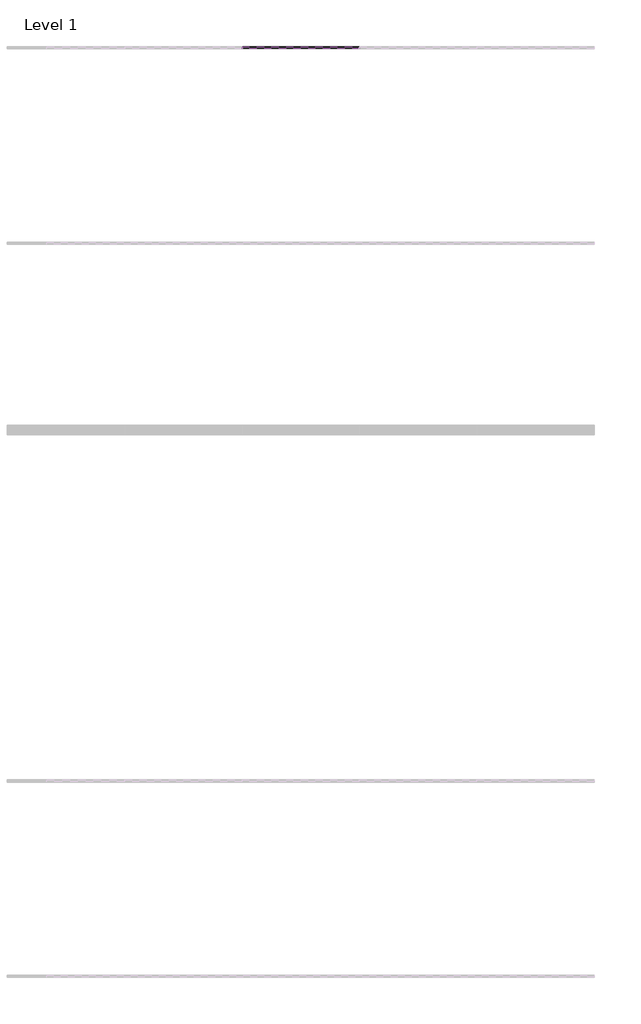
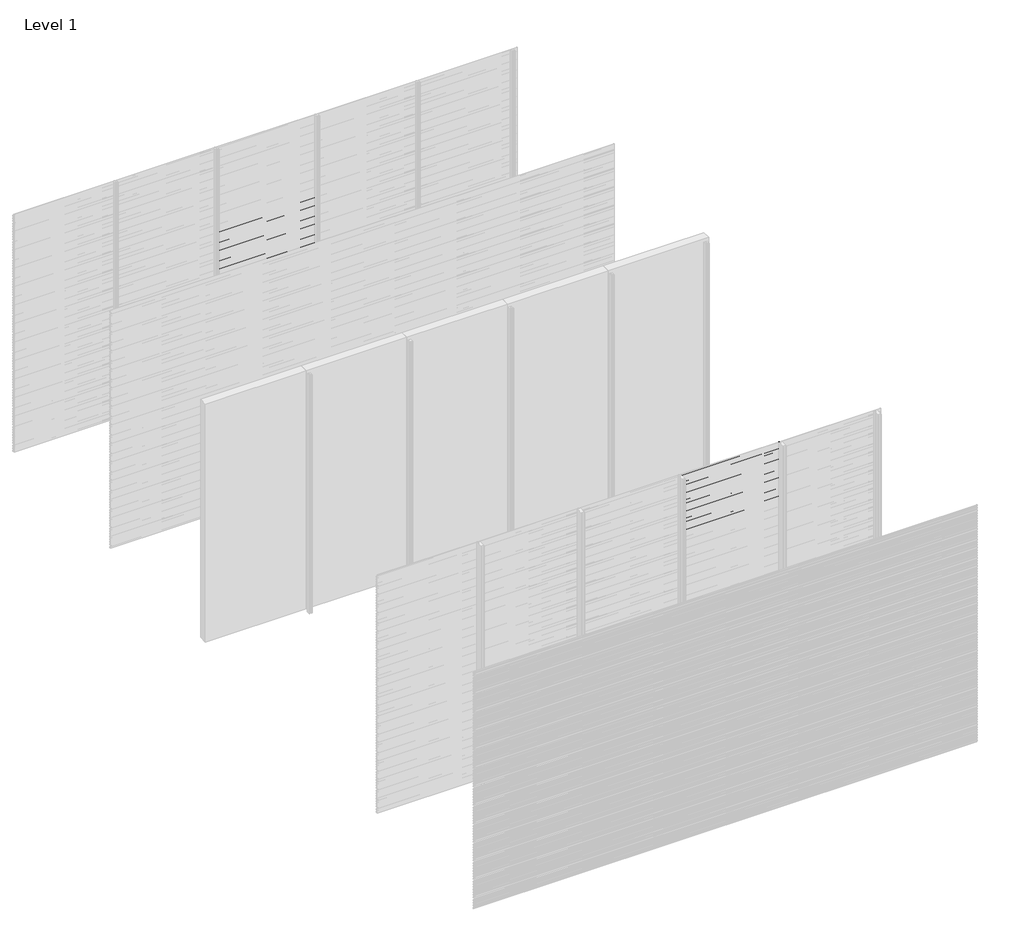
# One storey, part 77 of 507: 84 proxies.
"""IFC4 building model written with IfcOpenShell, lengths in millimetres."""

from ifc_helpers import new_model, si_unit, frame, origin, place, context, project, spatial, polyline, outline, extrude, element, save

model = new_model("IFC4")

# Units and contexts
model_context = context("Model", 3, world=origin())
ifc_project = project(units=[si_unit("LENGTHUNIT", "METRE", prefix="MILLI")], contexts=[model_context])

# Site, building, storey
site = spatial("IfcSite", under=ifc_project)
building = spatial("IfcBuilding", under=site)
storey = spatial("IfcBuildingStorey", under=building, Name="Level 1", Elevation=0.0)

# Proxies
placement = place(None, origin())
element("IfcBuildingElementProxy", 1, Name="Wall Sweeps", at=placement, inside=storey, context=model_context, shape_type="SweptSolid", body=[
    extrude(outline(polyline([(59003.4540136, 1974.0), (59003.4540136, 1960.5), (59002.2040136, 1961.2216933), (59002.2040136, 1973.2782281), (58983.0540136, 1984.3345698), (58983.0540136, 1998.0), (58984.3040136, 1998.0), (58984.3040136, 1985.0562577), (59003.4540136, 1974.0)])), frame((47366.6208097, 0.0, 0.0), z_axis=(1.0, 0.0, 0.0), x_axis=(0.0, 1.0, 0.0)), (0.0, 0.0, 1.0), 1199.9999999),
])
element("IfcBuildingElementProxy", 2, Name="Wall Sweeps", at=placement, inside=storey, context=model_context, shape_type="SweptSolid", body=[
    extrude(outline(polyline([(59003.4540136, 1940.7), (59003.4540136, 1927.2), (59002.2040136, 1927.9216933), (59002.2040136, 1939.9782281), (58983.0540136, 1951.0345698), (58983.0540136, 1964.7), (58984.3040136, 1964.7), (58984.3040136, 1951.7562577), (59003.4540136, 1940.7)])), frame((47366.6208097, 0.0, 0.0), z_axis=(1.0, 0.0, 0.0), x_axis=(0.0, 1.0, 0.0)), (0.0, 0.0, 1.0), 1199.9999999),
])
element("IfcBuildingElementProxy", 3, Name="Wall Sweeps", at=placement, inside=storey, context=model_context, shape_type="SweptSolid", body=[
    extrude(outline(polyline([(59003.4540136, 1907.4), (59003.4540136, 1893.9), (59002.2040136, 1894.6216933), (59002.2040136, 1906.6782281), (58983.0540136, 1917.7345698), (58983.0540136, 1931.4), (58984.3040136, 1931.4), (58984.3040136, 1918.4562577), (59003.4540136, 1907.4)])), frame((47366.6208097, 0.0, 0.0), z_axis=(1.0, 0.0, 0.0), x_axis=(0.0, 1.0, 0.0)), (0.0, 0.0, 1.0), 1199.9999999),
])
element("IfcBuildingElementProxy", 4, Name="Wall Sweeps", at=placement, inside=storey, context=model_context, shape_type="SweptSolid", body=[
    extrude(outline(polyline([(59003.4540136, 1874.1), (59003.4540136, 1860.6), (59002.2040136, 1861.3216933), (59002.2040136, 1873.3782281), (58983.0540136, 1884.4345698), (58983.0540136, 1898.1), (58984.3040136, 1898.1), (58984.3040136, 1885.1562577), (59003.4540136, 1874.1)])), frame((47366.6208097, 0.0, 0.0), z_axis=(1.0, 0.0, 0.0), x_axis=(0.0, 1.0, 0.0)), (0.0, 0.0, 1.0), 1199.9999999),
])
element("IfcBuildingElementProxy", 5, Name="Wall Sweeps", at=placement, inside=storey, context=model_context, shape_type="SweptSolid", body=[
    extrude(outline(polyline([(59003.4540136, 1840.8), (59003.4540136, 1827.3), (59002.2040136, 1828.0216933), (59002.2040136, 1840.0782281), (58983.0540136, 1851.1345698), (58983.0540136, 1864.8), (58984.3040136, 1864.8), (58984.3040136, 1851.8562577), (59003.4540136, 1840.8)])), frame((47366.6208097, 0.0, 0.0), z_axis=(1.0, 0.0, 0.0), x_axis=(0.0, 1.0, 0.0)), (0.0, 0.0, 1.0), 1199.9999999),
])
element("IfcBuildingElementProxy", 6, Name="Wall Sweeps", at=placement, inside=storey, context=model_context, shape_type="SweptSolid", body=[
    extrude(outline(polyline([(59003.4540136, 1807.5), (59003.4540136, 1794.0), (59002.2040136, 1794.7216933), (59002.2040136, 1806.7782281), (58983.0540136, 1817.8345698), (58983.0540136, 1831.5), (58984.3040136, 1831.5), (58984.3040136, 1818.5562577), (59003.4540136, 1807.5)])), frame((47366.6208097, 0.0, 0.0), z_axis=(1.0, 0.0, 0.0), x_axis=(0.0, 1.0, 0.0)), (0.0, 0.0, 1.0), 1199.9999999),
])
element("IfcBuildingElementProxy", 7, Name="Wall Sweeps", at=placement, inside=storey, context=model_context, shape_type="SweptSolid", body=[
    extrude(outline(polyline([(59003.4540136, 1774.2), (59003.4540136, 1760.7), (59002.2040136, 1761.4216933), (59002.2040136, 1773.4782281), (58983.0540136, 1784.5345698), (58983.0540136, 1798.2), (58984.3040136, 1798.2), (58984.3040136, 1785.2562577), (59003.4540136, 1774.2)])), frame((47366.6208097, 0.0, 0.0), z_axis=(1.0, 0.0, 0.0), x_axis=(0.0, 1.0, 0.0)), (0.0, 0.0, 1.0), 1199.9999999),
])
element("IfcBuildingElementProxy", 8, Name="Wall Sweeps", at=placement, inside=storey, context=model_context, shape_type="SweptSolid", body=[
    extrude(outline(polyline([(59003.4540136, 1740.9), (59003.4540136, 1727.4), (59002.2040136, 1728.1216933), (59002.2040136, 1740.1782281), (58983.0540136, 1751.2345698), (58983.0540136, 1764.9), (58984.3040136, 1764.9), (58984.3040136, 1751.9562577), (59003.4540136, 1740.9)])), frame((47366.6208097, 0.0, 0.0), z_axis=(1.0, 0.0, 0.0), x_axis=(0.0, 1.0, 0.0)), (0.0, 0.0, 1.0), 1199.9999999),
])
element("IfcBuildingElementProxy", 9, Name="Wall Sweeps", at=placement, inside=storey, context=model_context, shape_type="SweptSolid", body=[
    extrude(outline(polyline([(59003.4540136, 1707.6), (59003.4540136, 1694.1), (59002.2040136, 1694.8216933), (59002.2040136, 1706.8782281), (58983.0540136, 1717.9345698), (58983.0540136, 1731.6), (58984.3040136, 1731.6), (58984.3040136, 1718.6562577), (59003.4540136, 1707.6)])), frame((47366.6208097, 0.0, 0.0), z_axis=(1.0, 0.0, 0.0), x_axis=(0.0, 1.0, 0.0)), (0.0, 0.0, 1.0), 1199.9999999),
])
element("IfcBuildingElementProxy", 10, Name="Wall Sweeps", at=placement, inside=storey, context=model_context, shape_type="SweptSolid", body=[
    extrude(outline(polyline([(59003.4540136, 1674.3), (59003.4540136, 1660.8), (59002.2040136, 1661.5216933), (59002.2040136, 1673.5782281), (58983.0540136, 1684.6345698), (58983.0540136, 1698.3), (58984.3040136, 1698.3), (58984.3040136, 1685.3562577), (59003.4540136, 1674.3)])), frame((47366.6208097, 0.0, 0.0), z_axis=(1.0, 0.0, 0.0), x_axis=(0.0, 1.0, 0.0)), (0.0, 0.0, 1.0), 1199.9999999),
])
element("IfcBuildingElementProxy", 11, Name="Wall Sweeps", at=placement, inside=storey, context=model_context, shape_type="SweptSolid", body=[
    extrude(outline(polyline([(59003.4540136, 1641.0), (59003.4540136, 1627.5), (59002.2040136, 1628.2216933), (59002.2040136, 1640.2782281), (58983.0540136, 1651.3345698), (58983.0540136, 1665.0), (58984.3040136, 1665.0), (58984.3040136, 1652.0562577), (59003.4540136, 1641.0)])), frame((47366.6208097, 0.0, 0.0), z_axis=(1.0, 0.0, 0.0), x_axis=(0.0, 1.0, 0.0)), (0.0, 0.0, 1.0), 1199.9999999),
])
element("IfcBuildingElementProxy", 12, Name="Wall Sweeps", at=placement, inside=storey, context=model_context, shape_type="SweptSolid", body=[
    extrude(outline(polyline([(59003.4540136, 1607.7), (59003.4540136, 1594.2), (59002.2040136, 1594.9216933), (59002.2040136, 1606.9782281), (58983.0540136, 1618.0345698), (58983.0540136, 1631.7), (58984.3040136, 1631.7), (58984.3040136, 1618.7562577), (59003.4540136, 1607.7)])), frame((47366.6208097, 0.0, 0.0), z_axis=(1.0, 0.0, 0.0), x_axis=(0.0, 1.0, 0.0)), (0.0, 0.0, 1.0), 1199.9999999),
])
element("IfcBuildingElementProxy", 13, Name="Wall Sweeps", at=placement, inside=storey, context=model_context, shape_type="SweptSolid", body=[
    extrude(outline(polyline([(59003.4540136, 1574.4), (59003.4540136, 1560.9), (59002.2040136, 1561.6216933), (59002.2040136, 1573.6782281), (58983.0540136, 1584.7345698), (58983.0540136, 1598.4), (58984.3040136, 1598.4), (58984.3040136, 1585.4562577), (59003.4540136, 1574.4)])), frame((47366.6208097, 0.0, 0.0), z_axis=(1.0, 0.0, 0.0), x_axis=(0.0, 1.0, 0.0)), (0.0, 0.0, 1.0), 1199.9999999),
])
element("IfcBuildingElementProxy", 14, Name="Wall Sweeps", at=placement, inside=storey, context=model_context, shape_type="SweptSolid", body=[
    extrude(outline(polyline([(59003.4540136, 1541.1), (59003.4540136, 1527.6), (59002.2040136, 1528.3216933), (59002.2040136, 1540.3782281), (58983.0540136, 1551.4345698), (58983.0540136, 1565.1), (58984.3040136, 1565.1), (58984.3040136, 1552.1562577), (59003.4540136, 1541.1)])), frame((47366.6208097, 0.0, 0.0), z_axis=(1.0, 0.0, 0.0), x_axis=(0.0, 1.0, 0.0)), (0.0, 0.0, 1.0), 1199.9999999),
])
element("IfcBuildingElementProxy", 15, Name="Wall Sweeps", at=placement, inside=storey, context=model_context, shape_type="SweptSolid", body=[
    extrude(outline(polyline([(59003.4540136, 1507.8), (59003.4540136, 1494.3), (59002.2040136, 1495.0216933), (59002.2040136, 1507.0782281), (58983.0540136, 1518.1345698), (58983.0540136, 1531.8), (58984.3040136, 1531.8), (58984.3040136, 1518.8562577), (59003.4540136, 1507.8)])), frame((47366.6208097, 0.0, 0.0), z_axis=(1.0, 0.0, 0.0), x_axis=(0.0, 1.0, 0.0)), (0.0, 0.0, 1.0), 1199.9999999),
])
element("IfcBuildingElementProxy", 16, Name="Wall Sweeps", at=placement, inside=storey, context=model_context, shape_type="SweptSolid", body=[
    extrude(outline(polyline([(59003.4540136, 1474.5), (59003.4540136, 1461.0), (59002.2040136, 1461.7216933), (59002.2040136, 1473.7782281), (58983.0540136, 1484.8345698), (58983.0540136, 1498.5), (58984.3040136, 1498.5), (58984.3040136, 1485.5562577), (59003.4540136, 1474.5)])), frame((47366.6208097, 0.0, 0.0), z_axis=(1.0, 0.0, 0.0), x_axis=(0.0, 1.0, 0.0)), (0.0, 0.0, 1.0), 1199.9999999),
])
element("IfcBuildingElementProxy", 17, Name="Wall Sweeps", at=placement, inside=storey, context=model_context, shape_type="SweptSolid", body=[
    extrude(outline(polyline([(59003.4540136, 1441.2), (59003.4540136, 1427.7), (59002.2040136, 1428.4216933), (59002.2040136, 1440.4782281), (58983.0540136, 1451.5345698), (58983.0540136, 1465.2), (58984.3040136, 1465.2), (58984.3040136, 1452.2562577), (59003.4540136, 1441.2)])), frame((47366.6208097, 0.0, 0.0), z_axis=(1.0, 0.0, 0.0), x_axis=(0.0, 1.0, 0.0)), (0.0, 0.0, 1.0), 1199.9999999),
])
element("IfcBuildingElementProxy", 18, Name="Wall Sweeps", at=placement, inside=storey, context=model_context, shape_type="SweptSolid", body=[
    extrude(outline(polyline([(59003.4540136, 1407.9), (59003.4540136, 1394.4), (59002.2040136, 1395.1216933), (59002.2040136, 1407.1782281), (58983.0540136, 1418.2345698), (58983.0540136, 1431.9), (58984.3040136, 1431.9), (58984.3040136, 1418.9562577), (59003.4540136, 1407.9)])), frame((47366.6208097, 0.0, 0.0), z_axis=(1.0, 0.0, 0.0), x_axis=(0.0, 1.0, 0.0)), (0.0, 0.0, 1.0), 1199.9999999),
])
element("IfcBuildingElementProxy", 19, Name="Wall Sweeps", at=placement, inside=storey, context=model_context, shape_type="SweptSolid", body=[
    extrude(outline(polyline([(59003.4540136, 1374.6), (59003.4540136, 1361.1), (59002.2040136, 1361.8216933), (59002.2040136, 1373.8782281), (58983.0540136, 1384.9345698), (58983.0540136, 1398.6), (58984.3040136, 1398.6), (58984.3040136, 1385.6562577), (59003.4540136, 1374.6)])), frame((47366.6208097, 0.0, 0.0), z_axis=(1.0, 0.0, 0.0), x_axis=(0.0, 1.0, 0.0)), (0.0, 0.0, 1.0), 1199.9999999),
])
element("IfcBuildingElementProxy", 20, Name="Wall Sweeps", at=placement, inside=storey, context=model_context, shape_type="SweptSolid", body=[
    extrude(outline(polyline([(59003.4540136, 1341.3), (59003.4540136, 1327.8), (59002.2040136, 1328.5216933), (59002.2040136, 1340.5782281), (58983.0540136, 1351.6345698), (58983.0540136, 1365.3), (58984.3040136, 1365.3), (58984.3040136, 1352.3562577), (59003.4540136, 1341.3)])), frame((47366.6208097, 0.0, 0.0), z_axis=(1.0, 0.0, 0.0), x_axis=(0.0, 1.0, 0.0)), (0.0, 0.0, 1.0), 1199.9999999),
])
element("IfcBuildingElementProxy", 21, Name="Wall Sweeps", at=placement, inside=storey, context=model_context, shape_type="SweptSolid", body=[
    extrude(outline(polyline([(59003.4540136, 1308.0), (59003.4540136, 1294.5), (59002.2040136, 1295.2216933), (59002.2040136, 1307.2782281), (58983.0540136, 1318.3345698), (58983.0540136, 1332.0), (58984.3040136, 1332.0), (58984.3040136, 1319.0562577), (59003.4540136, 1308.0)])), frame((47366.6208097, 0.0, 0.0), z_axis=(1.0, 0.0, 0.0), x_axis=(0.0, 1.0, 0.0)), (0.0, 0.0, 1.0), 1199.9999999),
])
element("IfcBuildingElementProxy", 22, Name="Wall Sweeps", at=placement, inside=storey, context=model_context, shape_type="SweptSolid", body=[
    extrude(outline(polyline([(59003.4540136, 1274.7), (59003.4540136, 1261.2), (59002.2040136, 1261.9216933), (59002.2040136, 1273.9782281), (58983.0540136, 1285.0345698), (58983.0540136, 1298.7), (58984.3040136, 1298.7), (58984.3040136, 1285.7562577), (59003.4540136, 1274.7)])), frame((47366.6208097, 0.0, 0.0), z_axis=(1.0, 0.0, 0.0), x_axis=(0.0, 1.0, 0.0)), (0.0, 0.0, 1.0), 1199.9999999),
])
element("IfcBuildingElementProxy", 23, Name="Wall Sweeps", at=placement, inside=storey, context=model_context, shape_type="SweptSolid", body=[
    extrude(outline(polyline([(59003.4540136, 1241.4), (59003.4540136, 1227.9), (59002.2040136, 1228.6216933), (59002.2040136, 1240.6782281), (58983.0540136, 1251.7345698), (58983.0540136, 1265.4), (58984.3040136, 1265.4), (58984.3040136, 1252.4562577), (59003.4540136, 1241.4)])), frame((47366.6208097, 0.0, 0.0), z_axis=(1.0, 0.0, 0.0), x_axis=(0.0, 1.0, 0.0)), (0.0, 0.0, 1.0), 1199.9999999),
])
element("IfcBuildingElementProxy", 24, Name="Wall Sweeps", at=placement, inside=storey, context=model_context, shape_type="SweptSolid", body=[
    extrude(outline(polyline([(59003.4540136, 1208.1), (59003.4540136, 1194.6), (59002.2040136, 1195.3216933), (59002.2040136, 1207.3782281), (58983.0540136, 1218.4345698), (58983.0540136, 1232.1), (58984.3040136, 1232.1), (58984.3040136, 1219.1562577), (59003.4540136, 1208.1)])), frame((47366.6208097, 0.0, 0.0), z_axis=(1.0, 0.0, 0.0), x_axis=(0.0, 1.0, 0.0)), (0.0, 0.0, 1.0), 1199.9999999),
])
element("IfcBuildingElementProxy", 25, Name="Wall Sweeps", at=placement, inside=storey, context=model_context, shape_type="SweptSolid", body=[
    extrude(outline(polyline([(59003.4540136, 1174.8), (59003.4540136, 1161.3), (59002.2040136, 1162.0216933), (59002.2040136, 1174.0782281), (58983.0540136, 1185.1345698), (58983.0540136, 1198.8), (58984.3040136, 1198.8), (58984.3040136, 1185.8562577), (59003.4540136, 1174.8)])), frame((47366.6208097, 0.0, 0.0), z_axis=(1.0, 0.0, 0.0), x_axis=(0.0, 1.0, 0.0)), (0.0, 0.0, 1.0), 1199.9999999),
])
element("IfcBuildingElementProxy", 26, Name="Wall Sweeps", at=placement, inside=storey, context=model_context, shape_type="SweptSolid", body=[
    extrude(outline(polyline([(59003.4540136, 1141.5), (59003.4540136, 1128.0), (59002.2040136, 1128.7216933), (59002.2040136, 1140.7782281), (58983.0540136, 1151.8345698), (58983.0540136, 1165.5), (58984.3040136, 1165.5), (58984.3040136, 1152.5562577), (59003.4540136, 1141.5)])), frame((47366.6208097, 0.0, 0.0), z_axis=(1.0, 0.0, 0.0), x_axis=(0.0, 1.0, 0.0)), (0.0, 0.0, 1.0), 1199.9999999),
])
element("IfcBuildingElementProxy", 27, Name="Wall Sweeps", at=placement, inside=storey, context=model_context, shape_type="SweptSolid", body=[
    extrude(outline(polyline([(59003.4540136, 1108.2), (59003.4540136, 1094.7), (59002.2040136, 1095.4216933), (59002.2040136, 1107.4782281), (58983.0540136, 1118.5345698), (58983.0540136, 1132.2), (58984.3040136, 1132.2), (58984.3040136, 1119.2562577), (59003.4540136, 1108.2)])), frame((47366.6208097, 0.0, 0.0), z_axis=(1.0, 0.0, 0.0), x_axis=(0.0, 1.0, 0.0)), (0.0, 0.0, 1.0), 1199.9999999),
])
element("IfcBuildingElementProxy", 28, Name="Wall Sweeps", at=placement, inside=storey, context=model_context, shape_type="SweptSolid", body=[
    extrude(outline(polyline([(59003.4540136, 1074.9), (59003.4540136, 1061.4), (59002.2040136, 1062.1216933), (59002.2040136, 1074.1782281), (58983.0540136, 1085.2345698), (58983.0540136, 1098.9), (58984.3040136, 1098.9), (58984.3040136, 1085.9562577), (59003.4540136, 1074.9)])), frame((47366.6208097, 0.0, 0.0), z_axis=(1.0, 0.0, 0.0), x_axis=(0.0, 1.0, 0.0)), (0.0, 0.0, 1.0), 1199.9999999),
])
element("IfcBuildingElementProxy", 29, Name="Wall Sweeps", at=placement, inside=storey, context=model_context, shape_type="SweptSolid", body=[
    extrude(outline(polyline([(59003.4540136, 1041.6), (59003.4540136, 1028.1), (59002.2040136, 1028.8216933), (59002.2040136, 1040.8782281), (58983.0540136, 1051.9345698), (58983.0540136, 1065.6), (58984.3040136, 1065.6), (58984.3040136, 1052.6562577), (59003.4540136, 1041.6)])), frame((47366.6208097, 0.0, 0.0), z_axis=(1.0, 0.0, 0.0), x_axis=(0.0, 1.0, 0.0)), (0.0, 0.0, 1.0), 1199.9999999),
])
element("IfcBuildingElementProxy", 30, Name="Wall Sweeps", at=placement, inside=storey, context=model_context, shape_type="SweptSolid", body=[
    extrude(outline(polyline([(59003.4540136, 1008.3), (59003.4540136, 994.8), (59002.2040136, 995.5216933), (59002.2040136, 1007.5782281), (58983.0540136, 1018.6345698), (58983.0540136, 1032.3), (58984.3040136, 1032.3), (58984.3040136, 1019.3562577), (59003.4540136, 1008.3)])), frame((47366.6208097, 0.0, 0.0), z_axis=(1.0, 0.0, 0.0), x_axis=(0.0, 1.0, 0.0)), (0.0, 0.0, 1.0), 1199.9999999),
])
element("IfcBuildingElementProxy", 31, Name="Wall Sweeps", at=placement, inside=storey, context=model_context, shape_type="SweptSolid", body=[
    extrude(outline(polyline([(59003.4540136, 975.0), (59003.4540136, 961.5), (59002.2040136, 962.2216933), (59002.2040136, 974.2782281), (58983.0540136, 985.3345698), (58983.0540136, 999.0), (58984.3040136, 999.0), (58984.3040136, 986.0562577), (59003.4540136, 975.0)])), frame((47366.6208097, 0.0, 0.0), z_axis=(1.0, 0.0, 0.0), x_axis=(0.0, 1.0, 0.0)), (0.0, 0.0, 1.0), 1199.9999999),
])
element("IfcBuildingElementProxy", 32, Name="Wall Sweeps", at=placement, inside=storey, context=model_context, shape_type="SweptSolid", body=[
    extrude(outline(polyline([(59003.4540136, 941.7), (59003.4540136, 928.2), (59002.2040136, 928.9216933), (59002.2040136, 940.9782281), (58983.0540136, 952.0345698), (58983.0540136, 965.7), (58984.3040136, 965.7), (58984.3040136, 952.7562577), (59003.4540136, 941.7)])), frame((47366.6208097, 0.0, 0.0), z_axis=(1.0, 0.0, 0.0), x_axis=(0.0, 1.0, 0.0)), (0.0, 0.0, 1.0), 1199.9999999),
])
element("IfcBuildingElementProxy", 33, Name="Wall Sweeps", at=placement, inside=storey, context=model_context, shape_type="SweptSolid", body=[
    extrude(outline(polyline([(59003.4540136, 908.4), (59003.4540136, 894.9), (59002.2040136, 895.6216933), (59002.2040136, 907.6782281), (58983.0540136, 918.7345698), (58983.0540136, 932.4), (58984.3040136, 932.4), (58984.3040136, 919.4562577), (59003.4540136, 908.4)])), frame((47366.6208097, 0.0, 0.0), z_axis=(1.0, 0.0, 0.0), x_axis=(0.0, 1.0, 0.0)), (0.0, 0.0, 1.0), 1199.9999999),
])
element("IfcBuildingElementProxy", 34, Name="Wall Sweeps", at=placement, inside=storey, context=model_context, shape_type="SweptSolid", body=[
    extrude(outline(polyline([(59003.4540136, 875.1), (59003.4540136, 861.6), (59002.2040136, 862.3216933), (59002.2040136, 874.3782281), (58983.0540136, 885.4345698), (58983.0540136, 899.1), (58984.3040136, 899.1), (58984.3040136, 886.1562577), (59003.4540136, 875.1)])), frame((47366.6208097, 0.0, 0.0), z_axis=(1.0, 0.0, 0.0), x_axis=(0.0, 1.0, 0.0)), (0.0, 0.0, 1.0), 1199.9999999),
])
element("IfcBuildingElementProxy", 35, Name="Wall Sweeps", at=placement, inside=storey, context=model_context, shape_type="SweptSolid", body=[
    extrude(outline(polyline([(59003.4540136, 841.8), (59003.4540136, 828.3), (59002.2040136, 829.0216933), (59002.2040136, 841.0782281), (58983.0540136, 852.1345698), (58983.0540136, 865.8), (58984.3040136, 865.8), (58984.3040136, 852.8562577), (59003.4540136, 841.8)])), frame((47366.6208097, 0.0, 0.0), z_axis=(1.0, 0.0, 0.0), x_axis=(0.0, 1.0, 0.0)), (0.0, 0.0, 1.0), 1199.9999999),
])
element("IfcBuildingElementProxy", 36, Name="Wall Sweeps", at=placement, inside=storey, context=model_context, shape_type="SweptSolid", body=[
    extrude(outline(polyline([(59003.4540136, 808.5), (59003.4540136, 795.0), (59002.2040136, 795.7216933), (59002.2040136, 807.7782281), (58983.0540136, 818.8345698), (58983.0540136, 832.5), (58984.3040136, 832.5), (58984.3040136, 819.5562577), (59003.4540136, 808.5)])), frame((47366.6208097, 0.0, 0.0), z_axis=(1.0, 0.0, 0.0), x_axis=(0.0, 1.0, 0.0)), (0.0, 0.0, 1.0), 1199.9999999),
])
element("IfcBuildingElementProxy", 37, Name="Wall Sweeps", at=placement, inside=storey, context=model_context, shape_type="SweptSolid", body=[
    extrude(outline(polyline([(59003.4540136, 775.2), (59003.4540136, 761.7), (59002.2040136, 762.4216933), (59002.2040136, 774.4782281), (58983.0540136, 785.5345698), (58983.0540136, 799.2), (58984.3040136, 799.2), (58984.3040136, 786.2562577), (59003.4540136, 775.2)])), frame((47366.6208097, 0.0, 0.0), z_axis=(1.0, 0.0, 0.0), x_axis=(0.0, 1.0, 0.0)), (0.0, 0.0, 1.0), 1199.9999999),
])
element("IfcBuildingElementProxy", 38, Name="Wall Sweeps", at=placement, inside=storey, context=model_context, shape_type="SweptSolid", body=[
    extrude(outline(polyline([(59003.4540136, 741.9), (59003.4540136, 728.4), (59002.2040136, 729.1216933), (59002.2040136, 741.1782281), (58983.0540136, 752.2345698), (58983.0540136, 765.9), (58984.3040136, 765.9), (58984.3040136, 752.9562577), (59003.4540136, 741.9)])), frame((47366.6208097, 0.0, 0.0), z_axis=(1.0, 0.0, 0.0), x_axis=(0.0, 1.0, 0.0)), (0.0, 0.0, 1.0), 1199.9999999),
])
element("IfcBuildingElementProxy", 39, Name="Wall Sweeps", at=placement, inside=storey, context=model_context, shape_type="SweptSolid", body=[
    extrude(outline(polyline([(59003.4540136, 708.6), (59003.4540136, 695.1), (59002.2040136, 695.8216933), (59002.2040136, 707.8782281), (58983.0540136, 718.9345698), (58983.0540136, 732.6), (58984.3040136, 732.6), (58984.3040136, 719.6562577), (59003.4540136, 708.6)])), frame((47366.6208097, 0.0, 0.0), z_axis=(1.0, 0.0, 0.0), x_axis=(0.0, 1.0, 0.0)), (0.0, 0.0, 1.0), 1199.9999999),
])
element("IfcBuildingElementProxy", 40, Name="Wall Sweeps", at=placement, inside=storey, context=model_context, shape_type="SweptSolid", body=[
    extrude(outline(polyline([(59003.4540136, 675.3), (59003.4540136, 661.8), (59002.2040136, 662.5216933), (59002.2040136, 674.5782281), (58983.0540136, 685.6345698), (58983.0540136, 699.3), (58984.3040136, 699.3), (58984.3040136, 686.3562577), (59003.4540136, 675.3)])), frame((47366.6208097, 0.0, 0.0), z_axis=(1.0, 0.0, 0.0), x_axis=(0.0, 1.0, 0.0)), (0.0, 0.0, 1.0), 1199.9999999),
])
element("IfcBuildingElementProxy", 41, Name="Wall Sweeps", at=placement, inside=storey, context=model_context, shape_type="SweptSolid", body=[
    extrude(outline(polyline([(59003.4540136, 642.0), (59003.4540136, 628.5), (59002.2040136, 629.2216933), (59002.2040136, 641.2782281), (58983.0540136, 652.3345698), (58983.0540136, 666.0), (58984.3040136, 666.0), (58984.3040136, 653.0562577), (59003.4540136, 642.0)])), frame((47366.6208097, 0.0, 0.0), z_axis=(1.0, 0.0, 0.0), x_axis=(0.0, 1.0, 0.0)), (0.0, 0.0, 1.0), 1199.9999999),
])
element("IfcBuildingElementProxy", 42, Name="Wall Sweeps", at=placement, inside=storey, context=model_context, shape_type="SweptSolid", body=[
    extrude(outline(polyline([(59003.4540136, 608.7), (59003.4540136, 595.2), (59002.2040136, 595.9216933), (59002.2040136, 607.9782281), (58983.0540136, 619.0345698), (58983.0540136, 632.7), (58984.3040136, 632.7), (58984.3040136, 619.7562577), (59003.4540136, 608.7)])), frame((47366.6208097, 0.0, 0.0), z_axis=(1.0, 0.0, 0.0), x_axis=(0.0, 1.0, 0.0)), (0.0, 0.0, 1.0), 1199.9999999),
])
element("IfcBuildingElementProxy", 43, Name="Wall Sweeps", at=placement, inside=storey, context=model_context, shape_type="SweptSolid", body=[
    extrude(outline(polyline([(59003.4540136, 575.4), (59003.4540136, 561.9), (59002.2040136, 562.6216933), (59002.2040136, 574.6782281), (58983.0540136, 585.7345698), (58983.0540136, 599.4), (58984.3040136, 599.4), (58984.3040136, 586.4562577), (59003.4540136, 575.4)])), frame((47366.6208097, 0.0, 0.0), z_axis=(1.0, 0.0, 0.0), x_axis=(0.0, 1.0, 0.0)), (0.0, 0.0, 1.0), 1199.9999999),
])
element("IfcBuildingElementProxy", 44, Name="Wall Sweeps", at=placement, inside=storey, context=model_context, shape_type="SweptSolid", body=[
    extrude(outline(polyline([(59003.4540136, 542.1), (59003.4540136, 528.6), (59002.2040136, 529.3216933), (59002.2040136, 541.3782281), (58983.0540136, 552.4345698), (58983.0540136, 566.1), (58984.3040136, 566.1), (58984.3040136, 553.1562577), (59003.4540136, 542.1)])), frame((47366.6208097, 0.0, 0.0), z_axis=(1.0, 0.0, 0.0), x_axis=(0.0, 1.0, 0.0)), (0.0, 0.0, 1.0), 1199.9999999),
])
element("IfcBuildingElementProxy", 45, Name="Wall Sweeps", at=placement, inside=storey, context=model_context, shape_type="SweptSolid", body=[
    extrude(outline(polyline([(59003.4540136, 508.8), (59003.4540136, 495.3), (59002.2040136, 496.0216933), (59002.2040136, 508.0782281), (58983.0540136, 519.1345698), (58983.0540136, 532.8), (58984.3040136, 532.8), (58984.3040136, 519.8562577), (59003.4540136, 508.8)])), frame((47366.6208097, 0.0, 0.0), z_axis=(1.0, 0.0, 0.0), x_axis=(0.0, 1.0, 0.0)), (0.0, 0.0, 1.0), 1199.9999999),
])
element("IfcBuildingElementProxy", 46, Name="Wall Sweeps", at=placement, inside=storey, context=model_context, shape_type="SweptSolid", body=[
    extrude(outline(polyline([(59003.4540136, 475.5), (59003.4540136, 462.0), (59002.2040136, 462.7216933), (59002.2040136, 474.7782281), (58983.0540136, 485.8345698), (58983.0540136, 499.5), (58984.3040136, 499.5), (58984.3040136, 486.5562577), (59003.4540136, 475.5)])), frame((47366.6208097, 0.0, 0.0), z_axis=(1.0, 0.0, 0.0), x_axis=(0.0, 1.0, 0.0)), (0.0, 0.0, 1.0), 1199.9999999),
])
element("IfcBuildingElementProxy", 47, Name="Wall Sweeps", at=placement, inside=storey, context=model_context, shape_type="SweptSolid", body=[
    extrude(outline(polyline([(59003.4540136, 442.2), (59003.4540136, 428.7), (59002.2040136, 429.4216933), (59002.2040136, 441.4782281), (58983.0540136, 452.5345698), (58983.0540136, 466.2), (58984.3040136, 466.2), (58984.3040136, 453.2562577), (59003.4540136, 442.2)])), frame((47366.6208097, 0.0, 0.0), z_axis=(1.0, 0.0, 0.0), x_axis=(0.0, 1.0, 0.0)), (0.0, 0.0, 1.0), 1199.9999999),
])
element("IfcBuildingElementProxy", 48, Name="Wall Sweeps", at=placement, inside=storey, context=model_context, shape_type="SweptSolid", body=[
    extrude(outline(polyline([(59003.4540136, 408.9), (59003.4540136, 395.4), (59002.2040136, 396.1216933), (59002.2040136, 408.1782281), (58983.0540136, 419.2345698), (58983.0540136, 432.9), (58984.3040136, 432.9), (58984.3040136, 419.9562577), (59003.4540136, 408.9)])), frame((47366.6208097, 0.0, 0.0), z_axis=(1.0, 0.0, 0.0), x_axis=(0.0, 1.0, 0.0)), (0.0, 0.0, 1.0), 1199.9999999),
])
element("IfcBuildingElementProxy", 49, Name="Wall Sweeps", at=placement, inside=storey, context=model_context, shape_type="SweptSolid", body=[
    extrude(outline(polyline([(59003.4540136, 375.6), (59003.4540136, 362.1), (59002.2040136, 362.8216933), (59002.2040136, 374.8782281), (58983.0540136, 385.9345698), (58983.0540136, 399.6), (58984.3040136, 399.6), (58984.3040136, 386.6562577), (59003.4540136, 375.6)])), frame((47366.6208097, 0.0, 0.0), z_axis=(1.0, 0.0, 0.0), x_axis=(0.0, 1.0, 0.0)), (0.0, 0.0, 1.0), 1199.9999999),
])
element("IfcBuildingElementProxy", 50, Name="Wall Sweeps", at=placement, inside=storey, context=model_context, shape_type="SweptSolid", body=[
    extrude(outline(polyline([(59003.4540136, 342.3), (59003.4540136, 328.8), (59002.2040136, 329.5216933), (59002.2040136, 341.5782281), (58983.0540136, 352.6345698), (58983.0540136, 366.3), (58984.3040136, 366.3), (58984.3040136, 353.3562577), (59003.4540136, 342.3)])), frame((47366.6208097, 0.0, 0.0), z_axis=(1.0, 0.0, 0.0), x_axis=(0.0, 1.0, 0.0)), (0.0, 0.0, 1.0), 1199.9999999),
])
element("IfcBuildingElementProxy", 51, Name="Wall Sweeps", at=placement, inside=storey, context=model_context, shape_type="SweptSolid", body=[
    extrude(outline(polyline([(59003.4540136, 309.0), (59003.4540136, 295.5), (59002.2040136, 296.2216933), (59002.2040136, 308.2782281), (58983.0540136, 319.3345698), (58983.0540136, 333.0), (58984.3040136, 333.0), (58984.3040136, 320.0562577), (59003.4540136, 309.0)])), frame((47366.6208097, 0.0, 0.0), z_axis=(1.0, 0.0, 0.0), x_axis=(0.0, 1.0, 0.0)), (0.0, 0.0, 1.0), 1199.9999999),
])
element("IfcBuildingElementProxy", 52, Name="Wall Sweeps", at=placement, inside=storey, context=model_context, shape_type="SweptSolid", body=[
    extrude(outline(polyline([(59003.4540136, 275.7), (59003.4540136, 262.2), (59002.2040136, 262.9216933), (59002.2040136, 274.9782281), (58983.0540136, 286.0345698), (58983.0540136, 299.7), (58984.3040136, 299.7), (58984.3040136, 286.7562577), (59003.4540136, 275.7)])), frame((47366.6208097, 0.0, 0.0), z_axis=(1.0, 0.0, 0.0), x_axis=(0.0, 1.0, 0.0)), (0.0, 0.0, 1.0), 1199.9999999),
])
element("IfcBuildingElementProxy", 53, Name="Wall Sweeps", at=placement, inside=storey, context=model_context, shape_type="SweptSolid", body=[
    extrude(outline(polyline([(59003.4540136, 242.4), (59003.4540136, 228.9), (59002.2040136, 229.6216933), (59002.2040136, 241.6782281), (58983.0540136, 252.7345698), (58983.0540136, 266.4), (58984.3040136, 266.4), (58984.3040136, 253.4562577), (59003.4540136, 242.4)])), frame((47366.6208097, 0.0, 0.0), z_axis=(1.0, 0.0, 0.0), x_axis=(0.0, 1.0, 0.0)), (0.0, 0.0, 1.0), 1199.9999999),
])
element("IfcBuildingElementProxy", 54, Name="Wall Sweeps", at=placement, inside=storey, context=model_context, shape_type="SweptSolid", body=[
    extrude(outline(polyline([(59003.4540136, 209.1), (59003.4540136, 195.6), (59002.2040136, 196.3216933), (59002.2040136, 208.3782281), (58983.0540136, 219.4345698), (58983.0540136, 233.1), (58984.3040136, 233.1), (58984.3040136, 220.1562577), (59003.4540136, 209.1)])), frame((47366.6208097, 0.0, 0.0), z_axis=(1.0, 0.0, 0.0), x_axis=(0.0, 1.0, 0.0)), (0.0, 0.0, 1.0), 1199.9999999),
])
element("IfcBuildingElementProxy", 55, Name="Wall Sweeps", at=placement, inside=storey, context=model_context, shape_type="SweptSolid", body=[
    extrude(outline(polyline([(59003.4540136, 175.8), (59003.4540136, 162.3), (59002.2040136, 163.0216933), (59002.2040136, 175.0782281), (58983.0540136, 186.1345698), (58983.0540136, 199.8), (58984.3040136, 199.8), (58984.3040136, 186.8562577), (59003.4540136, 175.8)])), frame((47366.6208097, 0.0, 0.0), z_axis=(1.0, 0.0, 0.0), x_axis=(0.0, 1.0, 0.0)), (0.0, 0.0, 1.0), 1199.9999999),
])
element("IfcBuildingElementProxy", 56, Name="Wall Sweeps", at=placement, inside=storey, context=model_context, shape_type="SweptSolid", body=[
    extrude(outline(polyline([(59003.4540136, 142.5), (59003.4540136, 129.0), (59002.2040136, 129.7216933), (59002.2040136, 141.7782281), (58983.0540136, 152.8345698), (58983.0540136, 166.5), (58984.3040136, 166.5), (58984.3040136, 153.5562577), (59003.4540136, 142.5)])), frame((47366.6208097, 0.0, 0.0), z_axis=(1.0, 0.0, 0.0), x_axis=(0.0, 1.0, 0.0)), (0.0, 0.0, 1.0), 1199.9999999),
])
element("IfcBuildingElementProxy", 57, Name="Wall Sweeps", at=placement, inside=storey, context=model_context, shape_type="SweptSolid", body=[
    extrude(outline(polyline([(59003.4540136, 109.2), (59003.4540136, 95.7), (59002.2040136, 96.4216933), (59002.2040136, 108.4782281), (58983.0540136, 119.5345698), (58983.0540136, 133.2), (58984.3040136, 133.2), (58984.3040136, 120.2562577), (59003.4540136, 109.2)])), frame((47366.6208097, 0.0, 0.0), z_axis=(1.0, 0.0, 0.0), x_axis=(0.0, 1.0, 0.0)), (0.0, 0.0, 1.0), 1199.9999999),
])
element("IfcBuildingElementProxy", 58, Name="Wall Sweeps", at=placement, inside=storey, context=model_context, shape_type="SweptSolid", body=[
    extrude(outline(polyline([(59003.4540136, 75.9), (59003.4540136, 62.4), (59002.2040136, 63.1216933), (59002.2040136, 75.1782281), (58983.0540136, 86.2345698), (58983.0540136, 99.9), (58984.3040136, 99.9), (58984.3040136, 86.9562577), (59003.4540136, 75.9)])), frame((47366.6208097, 0.0, 0.0), z_axis=(1.0, 0.0, 0.0), x_axis=(0.0, 1.0, 0.0)), (0.0, 0.0, 1.0), 1199.9999999),
])
element("IfcBuildingElementProxy", 59, Name="Wall Sweeps", at=placement, inside=storey, context=model_context, shape_type="SweptSolid", body=[
    extrude(outline(polyline([(59003.4540136, 42.6), (59003.4540136, 29.1), (59002.2040136, 29.8216933), (59002.2040136, 41.8782281), (58983.0540136, 52.9345698), (58983.0540136, 66.6), (58984.3040136, 66.6), (58984.3040136, 53.6562577), (59003.4540136, 42.6)])), frame((47366.6208097, 0.0, 0.0), z_axis=(1.0, 0.0, 0.0), x_axis=(0.0, 1.0, 0.0)), (0.0, 0.0, 1.0), 1199.9999999),
])
element("IfcBuildingElementProxy", 60, Name="Wall Sweeps", at=placement, inside=storey, context=model_context, shape_type="SweptSolid", body=[
    extrude(outline(polyline([(59003.4540136, 9.3), (59003.4540136, -4.2), (59002.2040136, -3.4783067), (59002.2040136, 8.5782281), (58983.0540136, 19.6345698), (58983.0540136, 33.3), (58984.3040136, 33.3), (58984.3040136, 20.3562577), (59003.4540136, 9.3)])), frame((47366.6208097, 0.0, 0.0), z_axis=(1.0, 0.0, 0.0), x_axis=(0.0, 1.0, 0.0)), (0.0, 0.0, 1.0), 1199.9999999),
])
element("IfcBuildingElementProxy", 61, Name="Wall Sweeps", at=placement, inside=storey, context=model_context, shape_type="SweptSolid", body=[
    extrude(outline(polyline([(51503.4540136, 2973.0), (51503.4540136, 2959.5), (51502.2040136, 2960.2216933), (51502.2040136, 2972.2782281), (51483.0540136, 2983.3345698), (51483.0540136, 2997.0), (51484.3040136, 2997.0), (51484.3040136, 2984.0562577), (51503.4540136, 2973.0)])), frame((48566.6208096, 0.0, 0.0), z_axis=(1.0, 0.0, 0.0), x_axis=(0.0, 1.0, 0.0)), (0.0, 0.0, 1.0), 1199.9999999),
])
element("IfcBuildingElementProxy", 62, Name="Wall Sweeps", at=placement, inside=storey, context=model_context, shape_type="SweptSolid", body=[
    extrude(outline(polyline([(51503.4540136, 2939.7), (51503.4540136, 2926.2), (51502.2040136, 2926.9216933), (51502.2040136, 2938.9782281), (51483.0540136, 2950.0345698), (51483.0540136, 2963.7), (51484.3040136, 2963.7), (51484.3040136, 2950.7562577), (51503.4540136, 2939.7)])), frame((48566.6208096, 0.0, 0.0), z_axis=(1.0, 0.0, 0.0), x_axis=(0.0, 1.0, 0.0)), (0.0, 0.0, 1.0), 1199.9999999),
])
element("IfcBuildingElementProxy", 63, Name="Wall Sweeps", at=placement, inside=storey, context=model_context, shape_type="SweptSolid", body=[
    extrude(outline(polyline([(51503.4540136, 2906.4), (51503.4540136, 2892.9), (51502.2040136, 2893.6216933), (51502.2040136, 2905.6782281), (51483.0540136, 2916.7345698), (51483.0540136, 2930.4), (51484.3040136, 2930.4), (51484.3040136, 2917.4562577), (51503.4540136, 2906.4)])), frame((48566.6208096, 0.0, 0.0), z_axis=(1.0, 0.0, 0.0), x_axis=(0.0, 1.0, 0.0)), (0.0, 0.0, 1.0), 1199.9999999),
])
element("IfcBuildingElementProxy", 64, Name="Wall Sweeps", at=placement, inside=storey, context=model_context, shape_type="SweptSolid", body=[
    extrude(outline(polyline([(51503.4540136, 2873.1), (51503.4540136, 2859.6), (51502.2040136, 2860.3216933), (51502.2040136, 2872.3782281), (51483.0540136, 2883.4345698), (51483.0540136, 2897.1), (51484.3040136, 2897.1), (51484.3040136, 2884.1562577), (51503.4540136, 2873.1)])), frame((48566.6208096, 0.0, 0.0), z_axis=(1.0, 0.0, 0.0), x_axis=(0.0, 1.0, 0.0)), (0.0, 0.0, 1.0), 1199.9999999),
])
element("IfcBuildingElementProxy", 65, Name="Wall Sweeps", at=placement, inside=storey, context=model_context, shape_type="SweptSolid", body=[
    extrude(outline(polyline([(51503.4540136, 2839.8), (51503.4540136, 2826.3), (51502.2040136, 2827.0216933), (51502.2040136, 2839.0782281), (51483.0540136, 2850.1345698), (51483.0540136, 2863.8), (51484.3040136, 2863.8), (51484.3040136, 2850.8562577), (51503.4540136, 2839.8)])), frame((48566.6208096, 0.0, 0.0), z_axis=(1.0, 0.0, 0.0), x_axis=(0.0, 1.0, 0.0)), (0.0, 0.0, 1.0), 1199.9999999),
])
element("IfcBuildingElementProxy", 66, Name="Wall Sweeps", at=placement, inside=storey, context=model_context, shape_type="SweptSolid", body=[
    extrude(outline(polyline([(51503.4540136, 2806.5), (51503.4540136, 2793.0), (51502.2040136, 2793.7216933), (51502.2040136, 2805.7782281), (51483.0540136, 2816.8345698), (51483.0540136, 2830.5), (51484.3040136, 2830.5), (51484.3040136, 2817.5562577), (51503.4540136, 2806.5)])), frame((48566.6208096, 0.0, 0.0), z_axis=(1.0, 0.0, 0.0), x_axis=(0.0, 1.0, 0.0)), (0.0, 0.0, 1.0), 1199.9999999),
])
element("IfcBuildingElementProxy", 67, Name="Wall Sweeps", at=placement, inside=storey, context=model_context, shape_type="SweptSolid", body=[
    extrude(outline(polyline([(51503.4540136, 2773.2), (51503.4540136, 2759.7), (51502.2040136, 2760.4216933), (51502.2040136, 2772.4782281), (51483.0540136, 2783.5345698), (51483.0540136, 2797.2), (51484.3040136, 2797.2), (51484.3040136, 2784.2562577), (51503.4540136, 2773.2)])), frame((48566.6208096, 0.0, 0.0), z_axis=(1.0, 0.0, 0.0), x_axis=(0.0, 1.0, 0.0)), (0.0, 0.0, 1.0), 1199.9999999),
])
element("IfcBuildingElementProxy", 68, Name="Wall Sweeps", at=placement, inside=storey, context=model_context, shape_type="SweptSolid", body=[
    extrude(outline(polyline([(51503.4540136, 2739.9), (51503.4540136, 2726.4), (51502.2040136, 2727.1216933), (51502.2040136, 2739.1782281), (51483.0540136, 2750.2345698), (51483.0540136, 2763.9), (51484.3040136, 2763.9), (51484.3040136, 2750.9562577), (51503.4540136, 2739.9)])), frame((48566.6208096, 0.0, 0.0), z_axis=(1.0, 0.0, 0.0), x_axis=(0.0, 1.0, 0.0)), (0.0, 0.0, 1.0), 1199.9999999),
])
element("IfcBuildingElementProxy", 69, Name="Wall Sweeps", at=placement, inside=storey, context=model_context, shape_type="SweptSolid", body=[
    extrude(outline(polyline([(51503.4540136, 2706.6), (51503.4540136, 2693.1), (51502.2040136, 2693.8216933), (51502.2040136, 2705.8782281), (51483.0540136, 2716.9345698), (51483.0540136, 2730.6), (51484.3040136, 2730.6), (51484.3040136, 2717.6562577), (51503.4540136, 2706.6)])), frame((48566.6208096, 0.0, 0.0), z_axis=(1.0, 0.0, 0.0), x_axis=(0.0, 1.0, 0.0)), (0.0, 0.0, 1.0), 1199.9999999),
])
element("IfcBuildingElementProxy", 70, Name="Wall Sweeps", at=placement, inside=storey, context=model_context, shape_type="SweptSolid", body=[
    extrude(outline(polyline([(51503.4540136, 2673.3), (51503.4540136, 2659.8), (51502.2040136, 2660.5216933), (51502.2040136, 2672.5782281), (51483.0540136, 2683.6345698), (51483.0540136, 2697.3), (51484.3040136, 2697.3), (51484.3040136, 2684.3562577), (51503.4540136, 2673.3)])), frame((48566.6208096, 0.0, 0.0), z_axis=(1.0, 0.0, 0.0), x_axis=(0.0, 1.0, 0.0)), (0.0, 0.0, 1.0), 1199.9999999),
])
element("IfcBuildingElementProxy", 71, Name="Wall Sweeps", at=placement, inside=storey, context=model_context, shape_type="SweptSolid", body=[
    extrude(outline(polyline([(51503.4540136, 2640.0), (51503.4540136, 2626.5), (51502.2040136, 2627.2216933), (51502.2040136, 2639.2782281), (51483.0540136, 2650.3345698), (51483.0540136, 2664.0), (51484.3040136, 2664.0), (51484.3040136, 2651.0562577), (51503.4540136, 2640.0)])), frame((48566.6208096, 0.0, 0.0), z_axis=(1.0, 0.0, 0.0), x_axis=(0.0, 1.0, 0.0)), (0.0, 0.0, 1.0), 1199.9999999),
])
element("IfcBuildingElementProxy", 72, Name="Wall Sweeps", at=placement, inside=storey, context=model_context, shape_type="SweptSolid", body=[
    extrude(outline(polyline([(51503.4540136, 2606.7), (51503.4540136, 2593.2), (51502.2040136, 2593.9216933), (51502.2040136, 2605.9782281), (51483.0540136, 2617.0345698), (51483.0540136, 2630.7), (51484.3040136, 2630.7), (51484.3040136, 2617.7562577), (51503.4540136, 2606.7)])), frame((48566.6208096, 0.0, 0.0), z_axis=(1.0, 0.0, 0.0), x_axis=(0.0, 1.0, 0.0)), (0.0, 0.0, 1.0), 1199.9999999),
])
element("IfcBuildingElementProxy", 73, Name="Wall Sweeps", at=placement, inside=storey, context=model_context, shape_type="SweptSolid", body=[
    extrude(outline(polyline([(51503.4540136, 2573.4), (51503.4540136, 2559.9), (51502.2040136, 2560.6216933), (51502.2040136, 2572.6782281), (51483.0540136, 2583.7345698), (51483.0540136, 2597.4), (51484.3040136, 2597.4), (51484.3040136, 2584.4562577), (51503.4540136, 2573.4)])), frame((48566.6208096, 0.0, 0.0), z_axis=(1.0, 0.0, 0.0), x_axis=(0.0, 1.0, 0.0)), (0.0, 0.0, 1.0), 1199.9999999),
])
element("IfcBuildingElementProxy", 74, Name="Wall Sweeps", at=placement, inside=storey, context=model_context, shape_type="SweptSolid", body=[
    extrude(outline(polyline([(51503.4540136, 2540.1), (51503.4540136, 2526.6), (51502.2040136, 2527.3216933), (51502.2040136, 2539.3782281), (51483.0540136, 2550.4345698), (51483.0540136, 2564.1), (51484.3040136, 2564.1), (51484.3040136, 2551.1562577), (51503.4540136, 2540.1)])), frame((48566.6208096, 0.0, 0.0), z_axis=(1.0, 0.0, 0.0), x_axis=(0.0, 1.0, 0.0)), (0.0, 0.0, 1.0), 1199.9999999),
])
element("IfcBuildingElementProxy", 75, Name="Wall Sweeps", at=placement, inside=storey, context=model_context, shape_type="SweptSolid", body=[
    extrude(outline(polyline([(51503.4540136, 2506.8), (51503.4540136, 2493.3), (51502.2040136, 2494.0216933), (51502.2040136, 2506.0782281), (51483.0540136, 2517.1345698), (51483.0540136, 2530.8), (51484.3040136, 2530.8), (51484.3040136, 2517.8562577), (51503.4540136, 2506.8)])), frame((48566.6208096, 0.0, 0.0), z_axis=(1.0, 0.0, 0.0), x_axis=(0.0, 1.0, 0.0)), (0.0, 0.0, 1.0), 1199.9999999),
])
element("IfcBuildingElementProxy", 76, Name="Wall Sweeps", at=placement, inside=storey, context=model_context, shape_type="SweptSolid", body=[
    extrude(outline(polyline([(51503.4540136, 2473.5), (51503.4540136, 2460.0), (51502.2040136, 2460.7216933), (51502.2040136, 2472.7782281), (51483.0540136, 2483.8345698), (51483.0540136, 2497.5), (51484.3040136, 2497.5), (51484.3040136, 2484.5562577), (51503.4540136, 2473.5)])), frame((48566.6208096, 0.0, 0.0), z_axis=(1.0, 0.0, 0.0), x_axis=(0.0, 1.0, 0.0)), (0.0, 0.0, 1.0), 1199.9999999),
])
element("IfcBuildingElementProxy", 77, Name="Wall Sweeps", at=placement, inside=storey, context=model_context, shape_type="SweptSolid", body=[
    extrude(outline(polyline([(51503.4540136, 2440.2), (51503.4540136, 2426.7), (51502.2040136, 2427.4216933), (51502.2040136, 2439.4782281), (51483.0540136, 2450.5345698), (51483.0540136, 2464.2), (51484.3040136, 2464.2), (51484.3040136, 2451.2562577), (51503.4540136, 2440.2)])), frame((48566.6208096, 0.0, 0.0), z_axis=(1.0, 0.0, 0.0), x_axis=(0.0, 1.0, 0.0)), (0.0, 0.0, 1.0), 1199.9999999),
])
element("IfcBuildingElementProxy", 78, Name="Wall Sweeps", at=placement, inside=storey, context=model_context, shape_type="SweptSolid", body=[
    extrude(outline(polyline([(51503.4540136, 2406.9), (51503.4540136, 2393.4), (51502.2040136, 2394.1216933), (51502.2040136, 2406.1782281), (51483.0540136, 2417.2345698), (51483.0540136, 2430.9), (51484.3040136, 2430.9), (51484.3040136, 2417.9562577), (51503.4540136, 2406.9)])), frame((48566.6208096, 0.0, 0.0), z_axis=(1.0, 0.0, 0.0), x_axis=(0.0, 1.0, 0.0)), (0.0, 0.0, 1.0), 1199.9999999),
])
element("IfcBuildingElementProxy", 79, Name="Wall Sweeps", at=placement, inside=storey, context=model_context, shape_type="SweptSolid", body=[
    extrude(outline(polyline([(51503.4540136, 2373.6), (51503.4540136, 2360.1), (51502.2040136, 2360.8216933), (51502.2040136, 2372.8782281), (51483.0540136, 2383.9345698), (51483.0540136, 2397.6), (51484.3040136, 2397.6), (51484.3040136, 2384.6562577), (51503.4540136, 2373.6)])), frame((48566.6208096, 0.0, 0.0), z_axis=(1.0, 0.0, 0.0), x_axis=(0.0, 1.0, 0.0)), (0.0, 0.0, 1.0), 1199.9999999),
])
element("IfcBuildingElementProxy", 80, Name="Wall Sweeps", at=placement, inside=storey, context=model_context, shape_type="SweptSolid", body=[
    extrude(outline(polyline([(51503.4540136, 2340.3), (51503.4540136, 2326.8), (51502.2040136, 2327.5216933), (51502.2040136, 2339.5782281), (51483.0540136, 2350.6345698), (51483.0540136, 2364.3), (51484.3040136, 2364.3), (51484.3040136, 2351.3562577), (51503.4540136, 2340.3)])), frame((48566.6208096, 0.0, 0.0), z_axis=(1.0, 0.0, 0.0), x_axis=(0.0, 1.0, 0.0)), (0.0, 0.0, 1.0), 1199.9999999),
])
element("IfcBuildingElementProxy", 81, Name="Wall Sweeps", at=placement, inside=storey, context=model_context, shape_type="SweptSolid", body=[
    extrude(outline(polyline([(51503.4540136, 2307.0), (51503.4540136, 2293.5), (51502.2040136, 2294.2216933), (51502.2040136, 2306.2782281), (51483.0540136, 2317.3345698), (51483.0540136, 2331.0), (51484.3040136, 2331.0), (51484.3040136, 2318.0562577), (51503.4540136, 2307.0)])), frame((48566.6208096, 0.0, 0.0), z_axis=(1.0, 0.0, 0.0), x_axis=(0.0, 1.0, 0.0)), (0.0, 0.0, 1.0), 1199.9999999),
])
element("IfcBuildingElementProxy", 82, Name="Wall Sweeps", at=placement, inside=storey, context=model_context, shape_type="SweptSolid", body=[
    extrude(outline(polyline([(51503.4540136, 2273.7), (51503.4540136, 2260.2), (51502.2040136, 2260.9216933), (51502.2040136, 2272.9782281), (51483.0540136, 2284.0345698), (51483.0540136, 2297.7), (51484.3040136, 2297.7), (51484.3040136, 2284.7562577), (51503.4540136, 2273.7)])), frame((48566.6208096, 0.0, 0.0), z_axis=(1.0, 0.0, 0.0), x_axis=(0.0, 1.0, 0.0)), (0.0, 0.0, 1.0), 1199.9999999),
])
element("IfcBuildingElementProxy", 83, Name="Wall Sweeps", at=placement, inside=storey, context=model_context, shape_type="SweptSolid", body=[
    extrude(outline(polyline([(51503.4540136, 2240.4), (51503.4540136, 2226.9), (51502.2040136, 2227.6216933), (51502.2040136, 2239.6782281), (51483.0540136, 2250.7345698), (51483.0540136, 2264.4), (51484.3040136, 2264.4), (51484.3040136, 2251.4562577), (51503.4540136, 2240.4)])), frame((48566.6208096, 0.0, 0.0), z_axis=(1.0, 0.0, 0.0), x_axis=(0.0, 1.0, 0.0)), (0.0, 0.0, 1.0), 1199.9999999),
])
element("IfcBuildingElementProxy", 84, Name="Wall Sweeps", at=placement, inside=storey, context=model_context, shape_type="SweptSolid", body=[
    extrude(outline(polyline([(51503.4540136, 2207.1), (51503.4540136, 2193.6), (51502.2040136, 2194.3216933), (51502.2040136, 2206.3782281), (51483.0540136, 2217.4345698), (51483.0540136, 2231.1), (51484.3040136, 2231.1), (51484.3040136, 2218.1562577), (51503.4540136, 2207.1)])), frame((48566.6208096, 0.0, 0.0), z_axis=(1.0, 0.0, 0.0), x_axis=(0.0, 1.0, 0.0)), (0.0, 0.0, 1.0), 1199.9999999),
])

save(model, "model.ifc")
